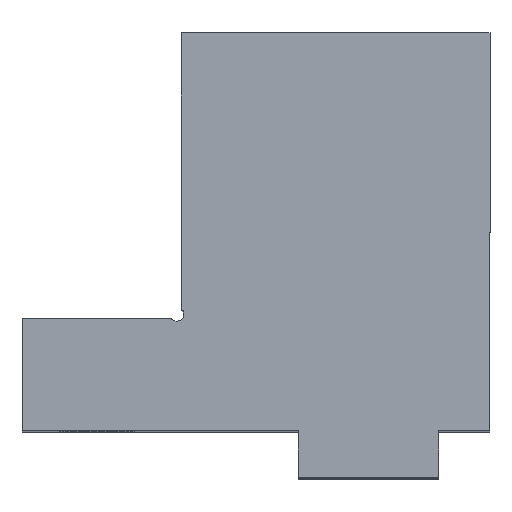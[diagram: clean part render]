
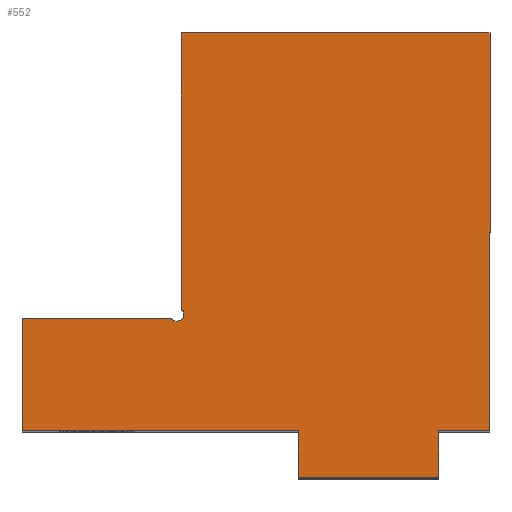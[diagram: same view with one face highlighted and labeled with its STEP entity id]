
A CAD part, top view. The second image highlights one B-rep face of the part: STEP entity #552.
In plain terms, the highlighted planar face has unit normal (0, 0, 1).
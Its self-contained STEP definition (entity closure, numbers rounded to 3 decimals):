
#351 = EDGE_CURVE ( 'NONE', #521, #473, #1335, .T. ) ;
#361 = VERTEX_POINT ( 'NONE', #1411 ) ;
#363 = EDGE_CURVE ( 'NONE', #361, #364, #1410, .T. ) ;
#364 = VERTEX_POINT ( 'NONE', #1405 ) ;
#377 = VERTEX_POINT ( 'NONE', #1308 ) ;
#379 = EDGE_CURVE ( 'NONE', #380, #377, #1307, .T. ) ;
#380 = VERTEX_POINT ( 'NONE', #1366 ) ;
#456 = VERTEX_POINT ( 'NONE', #1264 ) ;
#458 = EDGE_CURVE ( 'NONE', #459, #456, #1263, .T. ) ;
#459 = VERTEX_POINT ( 'NONE', #1259 ) ;
#473 = VERTEX_POINT ( 'NONE', #1234 ) ;
#501 = VERTEX_POINT ( 'NONE', #1482 ) ;
#503 = EDGE_CURVE ( 'NONE', #473, #501, #1481, .T. ) ;
#514 = VERTEX_POINT ( 'NONE', #1583 ) ;
#521 = VERTEX_POINT ( 'NONE', #1572 ) ;
#523 = EDGE_CURVE ( 'NONE', #514, #521, #1571, .T. ) ;
#541 = EDGE_CURVE ( 'NONE', #501, #669, #1656, .T. ) ;
#544 = EDGE_CURVE ( 'NONE', #545, #459, #1646, .T. ) ;
#545 = VERTEX_POINT ( 'NONE', #1637 ) ;
#552 = ADVANCED_FACE ( 'NONE', ( #1627 ), #1624, .T. ) ;
#592 = VERTEX_POINT ( 'NONE', #1504 ) ;
#593 = EDGE_LOOP ( 'NONE', ( #594, #596, #597, #600, #602, #603, #604, #605, #606, #607, #654, #655, #656, #657 ) ) ;
#594 = ORIENTED_EDGE ( 'NONE', *, *, #595, .F. ) ;
#595 = EDGE_CURVE ( 'NONE', #364, #592, #1503, .T. ) ;
#596 = ORIENTED_EDGE ( 'NONE', *, *, #363, .F. ) ;
#597 = ORIENTED_EDGE ( 'NONE', *, *, #598, .F. ) ;
#598 = EDGE_CURVE ( 'NONE', #599, #361, #1467, .T. ) ;
#599 = VERTEX_POINT ( 'NONE', #1462 ) ;
#600 = ORIENTED_EDGE ( 'NONE', *, *, #601, .F. ) ;
#601 = EDGE_CURVE ( 'NONE', #545, #599, #1461, .T. ) ;
#602 = ORIENTED_EDGE ( 'NONE', *, *, #544, .T. ) ;
#603 = ORIENTED_EDGE ( 'NONE', *, *, #458, .T. ) ;
#604 = ORIENTED_EDGE ( 'NONE', *, *, #650, .T. ) ;
#605 = ORIENTED_EDGE ( 'NONE', *, *, #523, .T. ) ;
#606 = ORIENTED_EDGE ( 'NONE', *, *, #351, .T. ) ;
#607 = ORIENTED_EDGE ( 'NONE', *, *, #503, .T. ) ;
#614 = EDGE_CURVE ( 'NONE', #669, #380, #1448, .T. ) ;
#637 = EDGE_CURVE ( 'NONE', #377, #592, #1597, .T. ) ;
#650 = EDGE_CURVE ( 'NONE', #456, #514, #1723, .T. ) ;
#654 = ORIENTED_EDGE ( 'NONE', *, *, #541, .T. ) ;
#655 = ORIENTED_EDGE ( 'NONE', *, *, #614, .T. ) ;
#656 = ORIENTED_EDGE ( 'NONE', *, *, #379, .T. ) ;
#657 = ORIENTED_EDGE ( 'NONE', *, *, #637, .T. ) ;
#669 = VERTEX_POINT ( 'NONE', #1918 ) ;
#1234 = CARTESIAN_POINT ( 'NONE',  ( 15., 0., 101. ) ) ;
#1259 = CARTESIAN_POINT ( 'NONE',  ( -74., 34., 101. ) ) ;
#1260 = DIRECTION ( 'NONE',  ( 0., -1., 0. ) ) ;
#1261 = VECTOR ( 'NONE', #1260, 1000. ) ;
#1262 = CARTESIAN_POINT ( 'NONE',  ( -74., 34., 101. ) ) ;
#1263 = LINE ( 'NONE', #1262, #1261 ) ;
#1264 = CARTESIAN_POINT ( 'NONE',  ( -74., 10., 101. ) ) ;
#1307 = LINE ( 'NONE', #1369, #1368 ) ;
#1308 = CARTESIAN_POINT ( 'NONE',  ( -40., 95., 101. ) ) ;
#1332 = DIRECTION ( 'NONE',  ( 1., 0., 0. ) ) ;
#1333 = VECTOR ( 'NONE', #1332, 1000. ) ;
#1334 = CARTESIAN_POINT ( 'NONE',  ( -15., 0., 101. ) ) ;
#1335 = LINE ( 'NONE', #1334, #1333 ) ;
#1366 = CARTESIAN_POINT ( 'NONE',  ( 26., 95., 101. ) ) ;
#1367 = DIRECTION ( 'NONE',  ( -1., 0., 0. ) ) ;
#1368 = VECTOR ( 'NONE', #1367, 1000. ) ;
#1369 = CARTESIAN_POINT ( 'NONE',  ( 26., 95., 101. ) ) ;
#1405 = CARTESIAN_POINT ( 'NONE',  ( -39.839, 35.961, 101. ) ) ;
#1406 = DIRECTION ( 'NONE',  ( 1., 0., 0. ) ) ;
#1407 = DIRECTION ( 'NONE',  ( 0., 0., 1. ) ) ;
#1408 = CARTESIAN_POINT ( 'NONE',  ( -40.9, 34.9, 101. ) ) ;
#1409 = AXIS2_PLACEMENT_3D ( 'NONE', #1408, #1407, #1406 ) ;
#1410 = CIRCLE ( 'NONE', #1409, 1.5 ) ;
#1411 = CARTESIAN_POINT ( 'NONE',  ( -39.4, 34.9, 101. ) ) ;
#1445 = DIRECTION ( 'NONE',  ( 0., 1., 0. ) ) ;
#1446 = VECTOR ( 'NONE', #1445, 1000. ) ;
#1447 = CARTESIAN_POINT ( 'NONE',  ( 26., 10., 101. ) ) ;
#1448 = LINE ( 'NONE', #1447, #1446 ) ;
#1458 = DIRECTION ( 'NONE',  ( 0.707, -0.707, 0. ) ) ;
#1459 = VECTOR ( 'NONE', #1458, 1000. ) ;
#1460 = CARTESIAN_POINT ( 'NONE',  ( -42.121, 34., 101. ) ) ;
#1461 = LINE ( 'NONE', #1460, #1459 ) ;
#1462 = CARTESIAN_POINT ( 'NONE',  ( -41.961, 33.839, 101. ) ) ;
#1463 = DIRECTION ( 'NONE',  ( 1., 0., 0. ) ) ;
#1464 = DIRECTION ( 'NONE',  ( 0., 0., 1. ) ) ;
#1465 = CARTESIAN_POINT ( 'NONE',  ( -40.9, 34.9, 101. ) ) ;
#1466 = AXIS2_PLACEMENT_3D ( 'NONE', #1465, #1464, #1463 ) ;
#1467 = CIRCLE ( 'NONE', #1466, 1.5 ) ;
#1478 = DIRECTION ( 'NONE',  ( 0., 1., 0. ) ) ;
#1479 = VECTOR ( 'NONE', #1478, 1000. ) ;
#1480 = CARTESIAN_POINT ( 'NONE',  ( 15., 0., 101. ) ) ;
#1481 = LINE ( 'NONE', #1480, #1479 ) ;
#1482 = CARTESIAN_POINT ( 'NONE',  ( 15., 10., 101. ) ) ;
#1500 = DIRECTION ( 'NONE',  ( -0.707, 0.707, 0. ) ) ;
#1501 = VECTOR ( 'NONE', #1500, 1000. ) ;
#1502 = CARTESIAN_POINT ( 'NONE',  ( -40., 36.121, 101. ) ) ;
#1503 = LINE ( 'NONE', #1502, #1501 ) ;
#1504 = CARTESIAN_POINT ( 'NONE',  ( -40., 36.121, 101. ) ) ;
#1568 = DIRECTION ( 'NONE',  ( 0., -1., 0. ) ) ;
#1569 = VECTOR ( 'NONE', #1568, 1000. ) ;
#1570 = CARTESIAN_POINT ( 'NONE',  ( -15., 10., 101. ) ) ;
#1571 = LINE ( 'NONE', #1570, #1569 ) ;
#1572 = CARTESIAN_POINT ( 'NONE',  ( -15., 0., 101. ) ) ;
#1583 = CARTESIAN_POINT ( 'NONE',  ( -15., 10., 101. ) ) ;
#1594 = DIRECTION ( 'NONE',  ( 0., -1., 0. ) ) ;
#1595 = VECTOR ( 'NONE', #1594, 1000. ) ;
#1596 = CARTESIAN_POINT ( 'NONE',  ( -40., 95., 101. ) ) ;
#1597 = LINE ( 'NONE', #1596, #1595 ) ;
#1620 = DIRECTION ( 'NONE',  ( 1., 0., 0. ) ) ;
#1621 = DIRECTION ( 'NONE',  ( 0., 0., 1. ) ) ;
#1622 = CARTESIAN_POINT ( 'NONE',  ( -74., 10., 101. ) ) ;
#1624 = PLANE ( 'NONE',  #1626 ) ;
#1626 = AXIS2_PLACEMENT_3D ( 'NONE', #1622, #1621, #1620 ) ;
#1627 = FACE_OUTER_BOUND ( 'NONE', #593, .T. ) ;
#1637 = CARTESIAN_POINT ( 'NONE',  ( -42.121, 34., 101. ) ) ;
#1638 = DIRECTION ( 'NONE',  ( -1., 0., 0. ) ) ;
#1639 = VECTOR ( 'NONE', #1638, 1000. ) ;
#1640 = CARTESIAN_POINT ( 'NONE',  ( -74., 34., 101. ) ) ;
#1646 = LINE ( 'NONE', #1640, #1639 ) ;
#1648 = DIRECTION ( 'NONE',  ( 1., 0., 0. ) ) ;
#1649 = VECTOR ( 'NONE', #1648, 1000. ) ;
#1650 = CARTESIAN_POINT ( 'NONE',  ( 15., 10., 101. ) ) ;
#1656 = LINE ( 'NONE', #1650, #1649 ) ;
#1720 = DIRECTION ( 'NONE',  ( 1., 0., 0. ) ) ;
#1721 = VECTOR ( 'NONE', #1720, 1000. ) ;
#1722 = CARTESIAN_POINT ( 'NONE',  ( -74., 10., 101. ) ) ;
#1723 = LINE ( 'NONE', #1722, #1721 ) ;
#1918 = CARTESIAN_POINT ( 'NONE',  ( 26., 10., 101. ) ) ;
